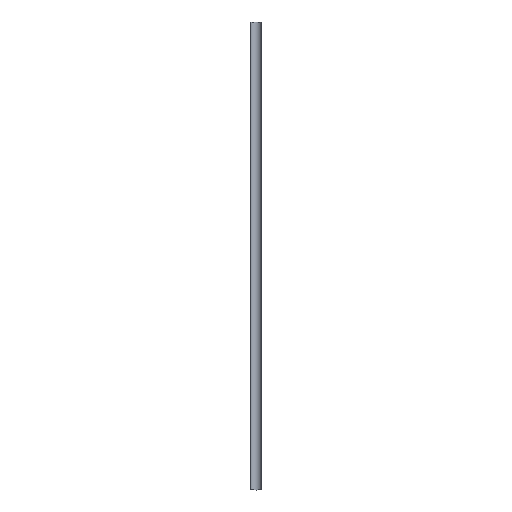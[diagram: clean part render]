
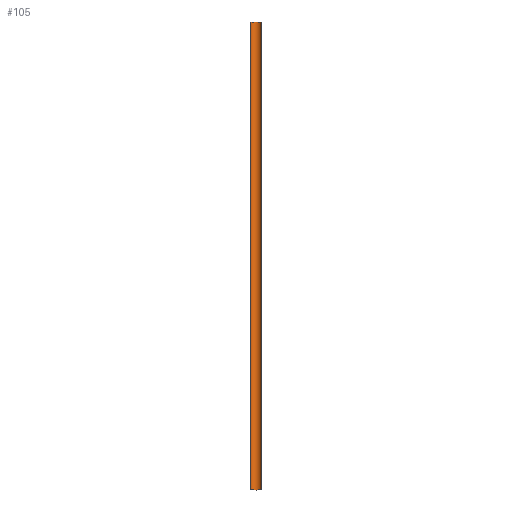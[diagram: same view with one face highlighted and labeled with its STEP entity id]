
A CAD part, top view. The second image highlights one B-rep face of the part: STEP entity #105.
In plain terms, the highlighted cylindrical face has radius 37.5 mm (diameter 75 mm), a partial arc.
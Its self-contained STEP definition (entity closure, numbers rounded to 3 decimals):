
#13=CYLINDRICAL_SURFACE($,#117,37.5);
#18=FACE_OUTER_BOUND($,#24,.T.);
#24=EDGE_LOOP($,(#82,#83,#84,#85));
#26=CIRCLE($,#111,37.5);
#29=CIRCLE($,#118,37.5);
#34=LINE($,#165,#42);
#37=LINE($,#173,#45);
#42=VECTOR($,#134,3000.);
#45=VECTOR($,#143,3000.);
#46=VERTEX_POINT($,#152);
#48=VERTEX_POINT($,#155);
#50=VERTEX_POINT($,#161);
#53=VERTEX_POINT($,#171);
#55=EDGE_CURVE($,#48,#46,#26,.T.);
#60=EDGE_CURVE($,#50,#48,#34,.T.);
#64=EDGE_CURVE($,#46,#53,#37,.T.);
#65=EDGE_CURVE($,#53,#50,#29,.T.);
#82=ORIENTED_EDGE($,*,*,#65,.T.);
#83=ORIENTED_EDGE($,*,*,#60,.T.);
#84=ORIENTED_EDGE($,*,*,#55,.T.);
#85=ORIENTED_EDGE($,*,*,#64,.T.);
#105=ADVANCED_FACE($,(#18),#13,.F.);
#111=AXIS2_PLACEMENT_3D($,#156,#125,#126);
#117=AXIS2_PLACEMENT_3D($,#174,#144,#145);
#118=AXIS2_PLACEMENT_3D($,#175,#146,#147);
#125=DIRECTION('center_axis',(0.,-1.,0.));
#126=DIRECTION('ref_axis',(-1.,0.,0.));
#134=DIRECTION($,(0.,-1.,0.));
#143=DIRECTION($,(0.,1.,0.));
#144=DIRECTION('center_axis',(0.,1.,0.));
#145=DIRECTION('ref_axis',(-1.,0.,0.));
#146=DIRECTION('center_axis',(0.,1.,0.));
#147=DIRECTION('ref_axis',(-1.,0.,0.));
#152=CARTESIAN_POINT('',(37.5,-1500.,0.));
#155=CARTESIAN_POINT('',(-37.5,-1500.,0.));
#156=CARTESIAN_POINT('Origin',(0.,-1500.,0.));
#161=CARTESIAN_POINT('',(-37.5,1500.,0.));
#165=CARTESIAN_POINT($,(-37.5,0.,0.));
#171=CARTESIAN_POINT('',(37.5,1500.,0.));
#173=CARTESIAN_POINT($,(37.5,0.,0.));
#174=CARTESIAN_POINT('Origin',(0.,0.,0.));
#175=CARTESIAN_POINT('Origin',(0.,1500.,0.));
